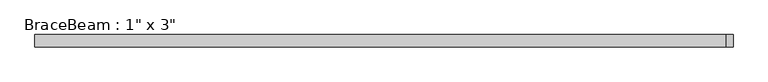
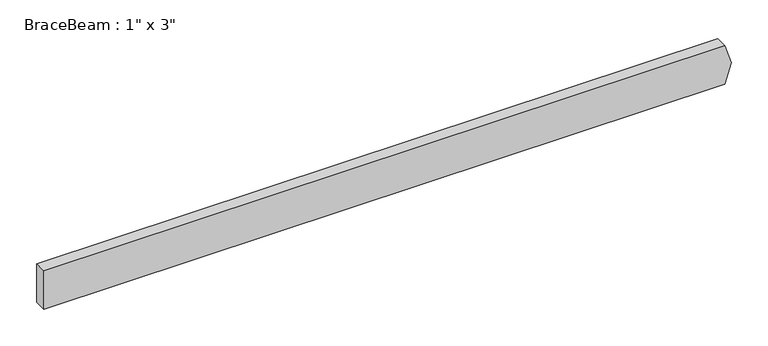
"""IFC4 building model written with IfcOpenShell, lengths in millimetres: beam geometry."""

from ifc_helpers import new_model, si_unit, frame, origin, place, context, project, spatial, polyline, outline, extrude, source, transform, mapped, element, save


def beam_21fbbdfc(model_context):
    return source(origin(), model_context, "Body", "SweptSolid", [
        extrude(outline(polyline([(-31.75, -557.2125), (-31.75, 513.451283), (0.0, 523.8141302), (31.75, 513.451283), (31.75, -557.2125), (-31.75, -557.2125)])), frame((0.0, -9.525, 0.0), z_axis=(0.0, 1.0, 0.0), x_axis=(0.0, 0.0, 1.0)), (0.0, 0.0, 1.0), 19.05),
    ])


if __name__ == "__main__":
    model = new_model("IFC4")
    model_context = context("Model", 3, world=origin())
    ifc_project = project(units=[si_unit("LENGTHUNIT", "METRE", prefix="MILLI")], contexts=[model_context])
    site = spatial("IfcSite", under=ifc_project)
    building = spatial("IfcBuilding", under=site)
    placement = place(None, origin())
    beam_shape = beam_21fbbdfc(model_context)
    element("IfcBeam", 1, ObjectType="BraceBeam : 1\" x 3\"", at=placement, inside=building, context=model_context, shape_type="MappedRepresentation", body=[
        mapped(beam_shape, transform((0.0, 0.0, 0.0), x_axis=(1.0, 0.0, 0.0), y_axis=(0.0, 1.0, 0.0), z_axis=(0.0, 0.0, 1.0))),
    ])
    save(model, "model.ifc")
